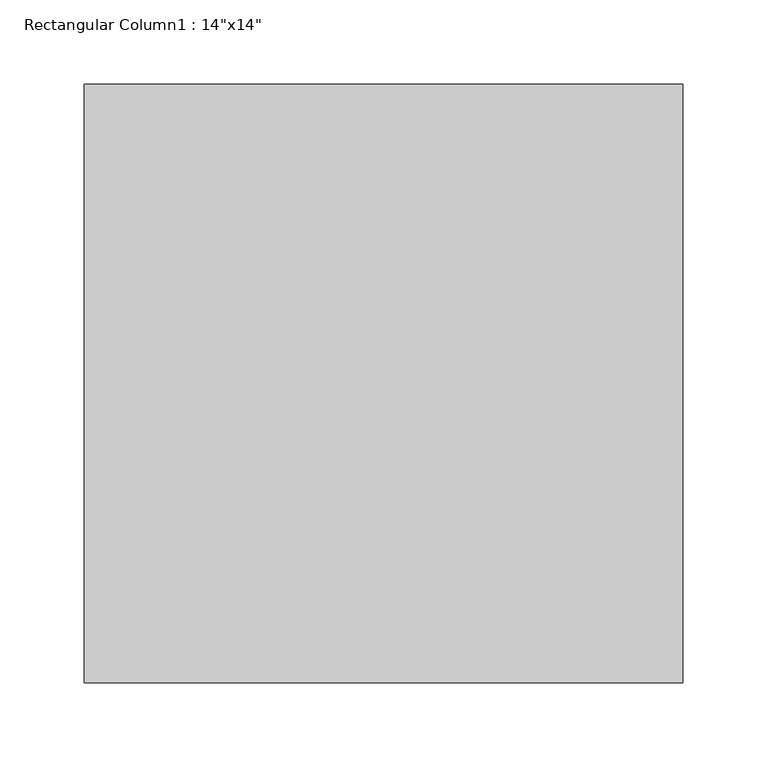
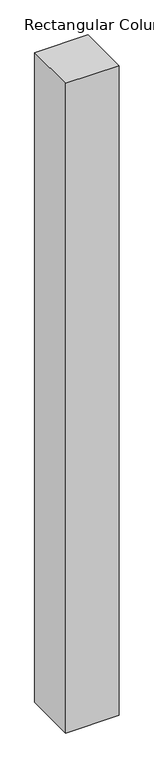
"""IFC4 building model written with IfcOpenShell, lengths in millimetres: column geometry."""

from ifc_helpers import new_model, si_unit, frame, origin, place, context, project, spatial, polyline, outline, extrude, source, transform, mapped, element, save


def column_f3eec772(model_context):
    return source(origin(), model_context, "Body", "SweptSolid", [
        extrude(outline(polyline([(177.8, 177.8), (177.8, -177.8), (-177.8, -177.8), (-177.8, 177.8), (177.8, 177.8)])), frame((0.0, 0.0, 290080.7), z_axis=(0.0, 0.0, 1.0), x_axis=(1.0, 0.0, 0.0)), (0.0, 0.0, 1.0), 4572.0),
    ])


if __name__ == "__main__":
    model = new_model("IFC4")
    model_context = context("Model", 3, world=origin())
    ifc_project = project(units=[si_unit("LENGTHUNIT", "METRE", prefix="MILLI")], contexts=[model_context])
    site = spatial("IfcSite", under=ifc_project)
    building = spatial("IfcBuilding", under=site)
    placement = place(None, origin())
    column_shape = column_f3eec772(model_context)
    element("IfcColumn", 1, ObjectType="Rectangular Column1 : 14\"x14\"", at=placement, inside=building, context=model_context, shape_type="MappedRepresentation", body=[
        mapped(column_shape, transform((0.0, 0.0, 0.0), x_axis=(1.0, 0.0, 0.0), y_axis=(0.0, 1.0, 0.0), z_axis=(0.0, 0.0, 1.0))),
    ])
    save(model, "model.ifc")
